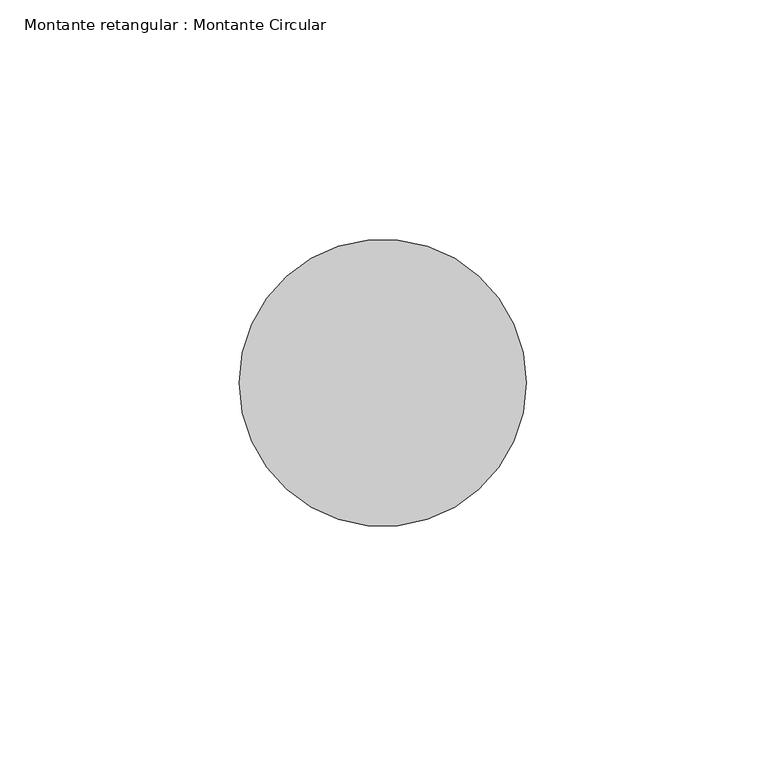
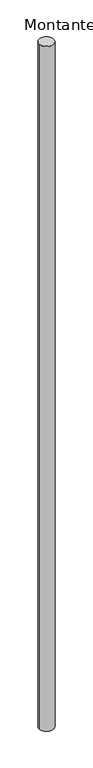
"""IFC4 building model written with IfcOpenShell, lengths in millimetres: member geometry, Montante retangular : Montante Circular."""

from ifc_helpers import new_model, si_unit, point, frame, frame_2d, origin, place, context, project, spatial, circle_curve, trimmed, segment, composite_curve, outline, extrude, source, transform, mapped, element, save


def montante_retangular_montante_circular_5ff1fdcf(model_context):
    return source(origin(), model_context, "Body", "SweptSolid", [
        extrude(outline(composite_curve([segment(trimmed(circle_curve(frame_2d((-30.0, 0.0)), 30.0), [point((0.0, 0.0))], [point((-60.0, 0.0))], False, "CARTESIAN"), True, "CONTINUOUS"), segment(trimmed(circle_curve(frame_2d((-30.0, 0.0)), 30.0), [point((-60.0, 0.0))], [point((0.0, 0.0))], False, "CARTESIAN"), True, "CONTINUOUS")], self_intersect=False)), frame((0.0, 0.0, -2940.0000003), z_axis=(0.0, 0.0, 1.0), x_axis=(1.0, 0.0, 0.0)), (0.0, 0.0, 1.0), 2940.0000003),
    ])


if __name__ == "__main__":
    model = new_model("IFC4")
    model_context = context("Model", 3, world=origin())
    ifc_project = project(units=[si_unit("LENGTHUNIT", "METRE", prefix="MILLI")], contexts=[model_context])
    site = spatial("IfcSite", under=ifc_project)
    building = spatial("IfcBuilding", under=site)
    placement = place(None, origin())
    montante_retangular_montante_circular_shape = montante_retangular_montante_circular_5ff1fdcf(model_context)
    element("IfcMember", 1, ObjectType="Montante retangular : Montante Circular", at=placement, inside=building, context=model_context, shape_type="MappedRepresentation", body=[
        mapped(montante_retangular_montante_circular_shape, transform((0.0, 0.0, 0.0), x_axis=(1.0, 0.0, 0.0), y_axis=(0.0, 1.0, 0.0), z_axis=(0.0, 0.0, 1.0))),
    ])
    save(model, "model.ifc")
